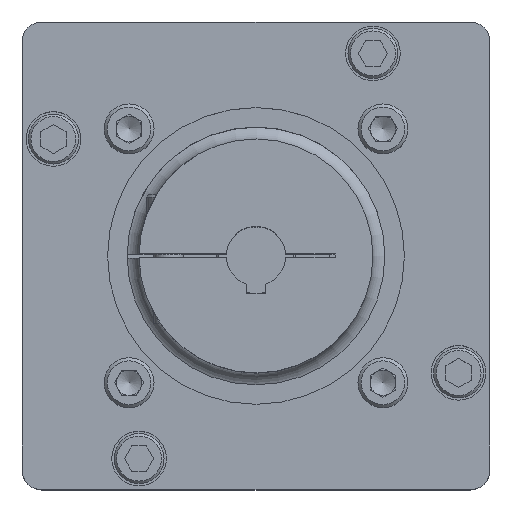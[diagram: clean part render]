
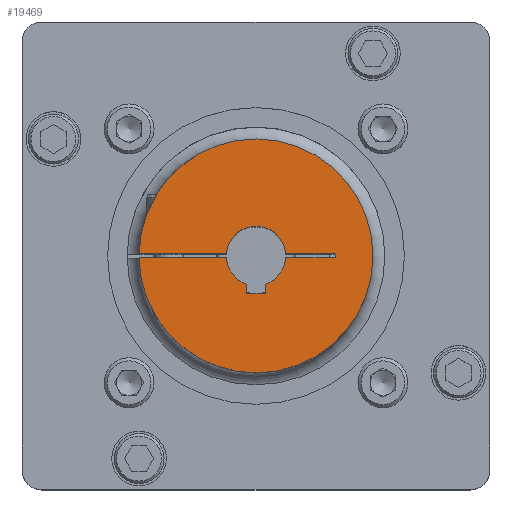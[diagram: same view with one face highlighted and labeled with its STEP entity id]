
A CAD part, top view. The second image highlights one B-rep face of the part: STEP entity #19469.
In plain terms, the highlighted planar face has unit normal (0, 0, 1).
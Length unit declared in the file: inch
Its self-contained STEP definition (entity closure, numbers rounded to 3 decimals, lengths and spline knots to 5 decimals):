
#37 = DIRECTION ( 'NONE',  ( 1., 0., 0. ) ) ;
#307 = PLANE ( 'NONE',  #11320 ) ;
#433 = CIRCLE ( 'NONE', #13030, 1.475 ) ;
#1073 = DIRECTION ( 'NONE',  ( 0., 1., 0. ) ) ;
#1374 = CARTESIAN_POINT ( 'NONE',  ( 1., 0.025, 9.9436 ) ) ;
#1469 = ORIENTED_EDGE ( 'NONE', *, *, #17077, .F. ) ;
#1719 = CARTESIAN_POINT ( 'NONE',  ( -0.37316, 0.025, 9.9436 ) ) ;
#1815 = CARTESIAN_POINT ( 'NONE',  ( 0.37316, 0.025, 9.9436 ) ) ;
#1853 = CARTESIAN_POINT ( 'NONE',  ( 0.1181, 0.35486, 9.9436 ) ) ;
#1925 = EDGE_LOOP ( 'NONE', ( #14613, #20724, #19305, #4334, #1469, #14619, #10381, #19561, #8462, #11792, #17661, #16896 ) ) ;
#3182 = CARTESIAN_POINT ( 'NONE',  ( 1., -0.025, 9.9436 ) ) ;
#3375 = LINE ( 'NONE', #16339, #4057 ) ;
#3509 = EDGE_CURVE ( 'NONE', #7395, #19463, #433, .T. ) ;
#3755 = CARTESIAN_POINT ( 'NONE',  ( 0.1181, -0.35486, 9.9436 ) ) ;
#4057 = VECTOR ( 'NONE', #16456, 39.37008 ) ;
#4059 = CARTESIAN_POINT ( 'NONE',  ( 1., -0.025, 9.9436 ) ) ;
#4334 = ORIENTED_EDGE ( 'NONE', *, *, #4652, .F. ) ;
#4489 = DIRECTION ( 'NONE',  ( 1., 0., 0. ) ) ;
#4652 = EDGE_CURVE ( 'NONE', #16815, #7972, #14489, .T. ) ;
#4852 = DIRECTION ( 'NONE',  ( 0., 1., 0. ) ) ;
#4856 = CIRCLE ( 'NONE', #8973, 0.374 ) ;
#5008 = CARTESIAN_POINT ( 'NONE',  ( 0., 0., 9.9436 ) ) ;
#5256 = LINE ( 'NONE', #4059, #7606 ) ;
#5684 = CARTESIAN_POINT ( 'NONE',  ( 0.37316, -0.025, 9.9436 ) ) ;
#5746 = EDGE_CURVE ( 'NONE', #15503, #11796, #20786, .T. ) ;
#5966 = DIRECTION ( 'NONE',  ( 0., 0., 1. ) ) ;
#6053 = CARTESIAN_POINT ( 'NONE',  ( 0., 0., 9.9436 ) ) ;
#6067 = DIRECTION ( 'NONE',  ( 1., 0., 0. ) ) ;
#6095 = CARTESIAN_POINT ( 'NONE',  ( 0., 0., 9.9436 ) ) ;
#6240 = CARTESIAN_POINT ( 'NONE',  ( 1., 0.025, 9.9436 ) ) ;
#6454 = DIRECTION ( 'NONE',  ( 0., 0., 1. ) ) ;
#7395 = VERTEX_POINT ( 'NONE', #9563 ) ;
#7518 = EDGE_CURVE ( 'NONE', #17949, #19463, #16327, .T. ) ;
#7586 = VERTEX_POINT ( 'NONE', #11384 ) ;
#7606 = VECTOR ( 'NONE', #19938, 39.37008 ) ;
#7972 = VERTEX_POINT ( 'NONE', #19638 ) ;
#8217 = DIRECTION ( 'NONE',  ( 1., 0., 0. ) ) ;
#8404 = CARTESIAN_POINT ( 'NONE',  ( 1., 0.025, 9.9436 ) ) ;
#8435 = FACE_OUTER_BOUND ( 'NONE', #1925, .T. ) ;
#8462 = ORIENTED_EDGE ( 'NONE', *, *, #8955, .F. ) ;
#8955 = EDGE_CURVE ( 'NONE', #11796, #13976, #20927, .T. ) ;
#8973 = AXIS2_PLACEMENT_3D ( 'NONE', #6095, #19178, #4489 ) ;
#9168 = VECTOR ( 'NONE', #4852, 39.37008 ) ;
#9289 = LINE ( 'NONE', #20861, #14379 ) ;
#9494 = VECTOR ( 'NONE', #12751, 39.37008 ) ;
#9563 = CARTESIAN_POINT ( 'NONE',  ( -1.47479, -0.025, 9.9436 ) ) ;
#9828 = DIRECTION ( 'NONE',  ( 1., 0., 0. ) ) ;
#9874 = DIRECTION ( 'NONE',  ( 0., 0., 1. ) ) ;
#10291 = VECTOR ( 'NONE', #9828, 39.37008 ) ;
#10381 = ORIENTED_EDGE ( 'NONE', *, *, #7518, .F. ) ;
#10715 = EDGE_CURVE ( 'NONE', #19200, #16712, #11167, .T. ) ;
#10732 = AXIS2_PLACEMENT_3D ( 'NONE', #12755, #6454, #19328 ) ;
#10751 = VERTEX_POINT ( 'NONE', #17340 ) ;
#10788 = DIRECTION ( 'NONE',  ( 1., 0., 0. ) ) ;
#10800 = CARTESIAN_POINT ( 'NONE',  ( -0.37316, -0.025, 9.9436 ) ) ;
#11167 = CIRCLE ( 'NONE', #18056, 0.374 ) ;
#11300 = DIRECTION ( 'NONE',  ( 0., 0., 1. ) ) ;
#11320 = AXIS2_PLACEMENT_3D ( 'NONE', #5008, #11300, #8217 ) ;
#11384 = CARTESIAN_POINT ( 'NONE',  ( 0.1181, -0.4725, 9.9436 ) ) ;
#11792 = ORIENTED_EDGE ( 'NONE', *, *, #5746, .F. ) ;
#11796 = VERTEX_POINT ( 'NONE', #19650 ) ;
#12751 = DIRECTION ( 'NONE',  ( -1., 0., 0. ) ) ;
#12755 = CARTESIAN_POINT ( 'NONE',  ( 0., 0., 9.9436 ) ) ;
#13030 = AXIS2_PLACEMENT_3D ( 'NONE', #6053, #9874, #37 ) ;
#13976 = VERTEX_POINT ( 'NONE', #1815 ) ;
#14379 = VECTOR ( 'NONE', #10788, 39.37008 ) ;
#14489 = CIRCLE ( 'NONE', #10732, 0.374 ) ;
#14549 = VECTOR ( 'NONE', #18399, 39.37008 ) ;
#14613 = ORIENTED_EDGE ( 'NONE', *, *, #16076, .F. ) ;
#14619 = ORIENTED_EDGE ( 'NONE', *, *, #3509, .T. ) ;
#15503 = VERTEX_POINT ( 'NONE', #19701 ) ;
#15824 = EDGE_CURVE ( 'NONE', #7972, #10751, #3375, .T. ) ;
#16076 = EDGE_CURVE ( 'NONE', #7586, #19200, #19655, .T. ) ;
#16327 = LINE ( 'NONE', #8404, #14549 ) ;
#16339 = CARTESIAN_POINT ( 'NONE',  ( -0.1181, 0.35486, 9.9436 ) ) ;
#16456 = DIRECTION ( 'NONE',  ( 0., -1., 0. ) ) ;
#16712 = VERTEX_POINT ( 'NONE', #5684 ) ;
#16815 = VERTEX_POINT ( 'NONE', #10800 ) ;
#16896 = ORIENTED_EDGE ( 'NONE', *, *, #10715, .F. ) ;
#17077 = EDGE_CURVE ( 'NONE', #7395, #16815, #17884, .T. ) ;
#17340 = CARTESIAN_POINT ( 'NONE',  ( -0.1181, -0.4725, 9.9436 ) ) ;
#17661 = ORIENTED_EDGE ( 'NONE', *, *, #19991, .F. ) ;
#17884 = LINE ( 'NONE', #3182, #10291 ) ;
#17949 = VERTEX_POINT ( 'NONE', #1719 ) ;
#18056 = AXIS2_PLACEMENT_3D ( 'NONE', #19851, #5966, #6067 ) ;
#18399 = DIRECTION ( 'NONE',  ( -1., 0., 0. ) ) ;
#18568 = EDGE_CURVE ( 'NONE', #10751, #7586, #9289, .T. ) ;
#19178 = DIRECTION ( 'NONE',  ( 0., 0., 1. ) ) ;
#19200 = VERTEX_POINT ( 'NONE', #3755 ) ;
#19305 = ORIENTED_EDGE ( 'NONE', *, *, #15824, .F. ) ;
#19328 = DIRECTION ( 'NONE',  ( 1., 0., 0. ) ) ;
#19463 = VERTEX_POINT ( 'NONE', #20755 ) ;
#19469 = ADVANCED_FACE ( 'NONE', ( #8435 ), #307, .T. ) ;
#19561 = ORIENTED_EDGE ( 'NONE', *, *, #19758, .F. ) ;
#19638 = CARTESIAN_POINT ( 'NONE',  ( -0.1181, -0.35486, 9.9436 ) ) ;
#19650 = CARTESIAN_POINT ( 'NONE',  ( 1., 0.025, 9.9436 ) ) ;
#19655 = LINE ( 'NONE', #1853, #9168 ) ;
#19701 = CARTESIAN_POINT ( 'NONE',  ( 1., -0.025, 9.9436 ) ) ;
#19758 = EDGE_CURVE ( 'NONE', #13976, #17949, #4856, .T. ) ;
#19851 = CARTESIAN_POINT ( 'NONE',  ( 0., 0., 9.9436 ) ) ;
#19938 = DIRECTION ( 'NONE',  ( 1., 0., 0. ) ) ;
#19991 = EDGE_CURVE ( 'NONE', #16712, #15503, #5256, .T. ) ;
#20709 = VECTOR ( 'NONE', #1073, 39.37008 ) ;
#20724 = ORIENTED_EDGE ( 'NONE', *, *, #18568, .F. ) ;
#20755 = CARTESIAN_POINT ( 'NONE',  ( -1.47479, 0.025, 9.9436 ) ) ;
#20786 = LINE ( 'NONE', #1374, #20709 ) ;
#20861 = CARTESIAN_POINT ( 'NONE',  ( -0.1181, -0.4725, 9.9436 ) ) ;
#20927 = LINE ( 'NONE', #6240, #9494 ) ;
